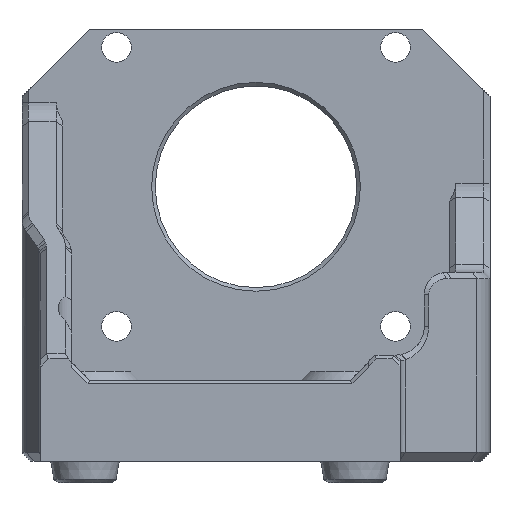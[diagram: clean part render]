
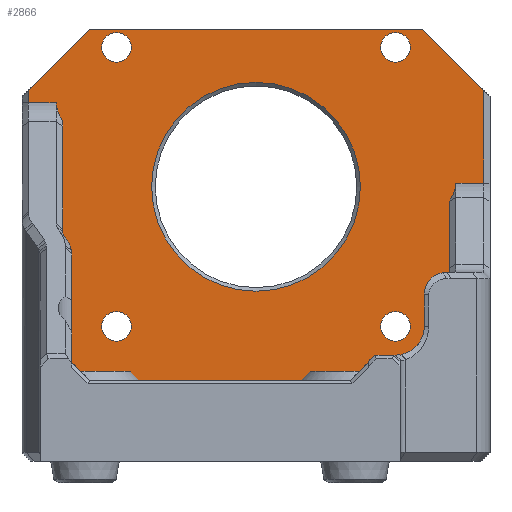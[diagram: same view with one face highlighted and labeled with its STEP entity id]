
A CAD part, front view. The second image highlights one B-rep face of the part: STEP entity #2866.
In plain terms, the highlighted planar face has unit normal (0, -1, 0).
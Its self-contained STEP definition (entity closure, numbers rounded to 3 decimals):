
#105=(
BOUNDED_CURVE()
B_SPLINE_CURVE(2,(#4258,#4259,#4260),.UNSPECIFIED.,.F.,.F.)
B_SPLINE_CURVE_WITH_KNOTS((3,3),(0.214,0.428),
 .UNSPECIFIED.)
CURVE()
GEOMETRIC_REPRESENTATION_ITEM()
RATIONAL_B_SPLINE_CURVE((1.,1.068,1.))
REPRESENTATION_ITEM('')
);
#106=(
BOUNDED_CURVE()
B_SPLINE_CURVE(2,(#4269,#4270,#4271),.UNSPECIFIED.,.F.,.F.)
B_SPLINE_CURVE_WITH_KNOTS((3,3),(0.,0.214),.UNSPECIFIED.)
CURVE()
GEOMETRIC_REPRESENTATION_ITEM()
RATIONAL_B_SPLINE_CURVE((1.,1.068,1.))
REPRESENTATION_ITEM('')
);
#126=FACE_BOUND('',#478,.T.);
#127=FACE_BOUND('',#479,.T.);
#128=FACE_BOUND('',#480,.T.);
#129=FACE_BOUND('',#481,.T.);
#130=FACE_BOUND('',#482,.T.);
#165=PLANE('',#3090);
#296=FACE_OUTER_BOUND('',#477,.T.);
#477=EDGE_LOOP('',(#2121,#2122,#2123,#2124,#2125,#2126,#2127,#2128,#2129,
#2130,#2131,#2132,#2133,#2134));
#478=EDGE_LOOP('',(#2135));
#479=EDGE_LOOP('',(#2136));
#480=EDGE_LOOP('',(#2137));
#481=EDGE_LOOP('',(#2138));
#482=EDGE_LOOP('',(#2139));
#645=LINE('',#4092,#919);
#682=LINE('',#4194,#956);
#701=LINE('',#4249,#975);
#702=LINE('',#4251,#976);
#703=LINE('',#4252,#977);
#704=LINE('',#4254,#978);
#705=LINE('',#4256,#979);
#706=LINE('',#4262,#980);
#707=LINE('',#4263,#981);
#708=LINE('',#4265,#982);
#709=LINE('',#4267,#983);
#710=LINE('',#4272,#984);
#919=VECTOR('',#3325,10.);
#956=VECTOR('',#3424,10.);
#975=VECTOR('',#3487,10.);
#976=VECTOR('',#3488,10.);
#977=VECTOR('',#3489,10.);
#978=VECTOR('',#3490,10.);
#979=VECTOR('',#3491,10.);
#980=VECTOR('',#3492,10.);
#981=VECTOR('',#3493,10.);
#982=VECTOR('',#3494,10.);
#983=VECTOR('',#3495,10.);
#984=VECTOR('',#3496,10.);
#1202=CIRCLE('',#3089,11.6);
#1203=CIRCLE('',#3091,1.65);
#1204=CIRCLE('',#3092,1.65);
#1205=CIRCLE('',#3093,1.65);
#1206=CIRCLE('',#3094,1.65);
#1283=VERTEX_POINT('',#4089);
#1284=VERTEX_POINT('',#4091);
#1317=VERTEX_POINT('',#4191);
#1318=VERTEX_POINT('',#4193);
#1330=VERTEX_POINT('',#4243);
#1331=VERTEX_POINT('',#4247);
#1332=VERTEX_POINT('',#4248);
#1333=VERTEX_POINT('',#4250);
#1334=VERTEX_POINT('',#4253);
#1335=VERTEX_POINT('',#4255);
#1336=VERTEX_POINT('',#4257);
#1337=VERTEX_POINT('',#4261);
#1338=VERTEX_POINT('',#4264);
#1339=VERTEX_POINT('',#4266);
#1340=VERTEX_POINT('',#4268);
#1341=VERTEX_POINT('',#4273);
#1342=VERTEX_POINT('',#4275);
#1343=VERTEX_POINT('',#4277);
#1344=VERTEX_POINT('',#4279);
#1550=EDGE_CURVE('',#1284,#1283,#645,.T.);
#1601=EDGE_CURVE('',#1317,#1318,#682,.T.);
#1626=EDGE_CURVE('',#1330,#1330,#1202,.T.);
#1628=EDGE_CURVE('',#1331,#1332,#701,.T.);
#1629=EDGE_CURVE('',#1333,#1331,#702,.T.);
#1630=EDGE_CURVE('',#1318,#1333,#703,.T.);
#1631=EDGE_CURVE('',#1334,#1317,#704,.T.);
#1632=EDGE_CURVE('',#1335,#1334,#705,.T.);
#1633=EDGE_CURVE('',#1336,#1335,#105,.F.);
#1634=EDGE_CURVE('',#1336,#1337,#706,.T.);
#1635=EDGE_CURVE('',#1337,#1284,#707,.T.);
#1636=EDGE_CURVE('',#1283,#1338,#708,.T.);
#1637=EDGE_CURVE('',#1338,#1339,#709,.T.);
#1638=EDGE_CURVE('',#1340,#1339,#106,.F.);
#1639=EDGE_CURVE('',#1332,#1340,#710,.T.);
#1640=EDGE_CURVE('',#1341,#1341,#1203,.T.);
#1641=EDGE_CURVE('',#1342,#1342,#1204,.T.);
#1642=EDGE_CURVE('',#1343,#1343,#1205,.T.);
#1643=EDGE_CURVE('',#1344,#1344,#1206,.T.);
#2121=ORIENTED_EDGE('',*,*,#1628,.F.);
#2122=ORIENTED_EDGE('',*,*,#1629,.F.);
#2123=ORIENTED_EDGE('',*,*,#1630,.F.);
#2124=ORIENTED_EDGE('',*,*,#1601,.F.);
#2125=ORIENTED_EDGE('',*,*,#1631,.F.);
#2126=ORIENTED_EDGE('',*,*,#1632,.F.);
#2127=ORIENTED_EDGE('',*,*,#1633,.F.);
#2128=ORIENTED_EDGE('',*,*,#1634,.T.);
#2129=ORIENTED_EDGE('',*,*,#1635,.T.);
#2130=ORIENTED_EDGE('',*,*,#1550,.T.);
#2131=ORIENTED_EDGE('',*,*,#1636,.T.);
#2132=ORIENTED_EDGE('',*,*,#1637,.T.);
#2133=ORIENTED_EDGE('',*,*,#1638,.F.);
#2134=ORIENTED_EDGE('',*,*,#1639,.F.);
#2135=ORIENTED_EDGE('',*,*,#1640,.T.);
#2136=ORIENTED_EDGE('',*,*,#1641,.T.);
#2137=ORIENTED_EDGE('',*,*,#1642,.T.);
#2138=ORIENTED_EDGE('',*,*,#1643,.T.);
#2139=ORIENTED_EDGE('',*,*,#1626,.F.);
#2866=ADVANCED_FACE('',(#296,#126,#127,#128,#129,#130),#165,.T.);
#3089=AXIS2_PLACEMENT_3D('',#4244,#3482,#3483);
#3090=AXIS2_PLACEMENT_3D('',#4246,#3485,#3486);
#3091=AXIS2_PLACEMENT_3D('',#4274,#3497,#3498);
#3092=AXIS2_PLACEMENT_3D('',#4276,#3499,#3500);
#3093=AXIS2_PLACEMENT_3D('',#4278,#3501,#3502);
#3094=AXIS2_PLACEMENT_3D('',#4280,#3503,#3504);
#3325=DIRECTION('',(1.,0.,0.));
#3424=DIRECTION('',(0.707,0.,0.707));
#3482=DIRECTION('center_axis',(0.,-1.,0.));
#3483=DIRECTION('ref_axis',(1.,0.,0.));
#3485=DIRECTION('center_axis',(0.,-1.,0.));
#3486=DIRECTION('ref_axis',(1.,0.,0.));
#3487=DIRECTION('',(0.,0.,-1.));
#3488=DIRECTION('',(0.707,0.,-0.707));
#3489=DIRECTION('',(1.,0.,0.));
#3490=DIRECTION('',(0.,0.,1.));
#3491=DIRECTION('',(-1.,0.,0.));
#3492=DIRECTION('',(0.,0.,-1.));
#3493=DIRECTION('',(0.707,0.,-0.707));
#3494=DIRECTION('',(0.707,0.,0.707));
#3495=DIRECTION('',(0.,0.,1.));
#3496=DIRECTION('',(-1.,0.,0.));
#3497=DIRECTION('center_axis',(0.,1.,0.));
#3498=DIRECTION('ref_axis',(1.,0.,0.));
#3499=DIRECTION('center_axis',(0.,1.,0.));
#3500=DIRECTION('ref_axis',(1.,0.,0.));
#3501=DIRECTION('center_axis',(0.,1.,0.));
#3502=DIRECTION('ref_axis',(1.,0.,0.));
#3503=DIRECTION('center_axis',(0.,1.,0.));
#3504=DIRECTION('ref_axis',(1.,0.,0.));
#4089=CARTESIAN_POINT('',(3.5,-1.55,51.875));
#4091=CARTESIAN_POINT('',(-35.5,-1.55,51.875));
#4092=CARTESIAN_POINT('',(-29.,-1.55,51.875));
#4191=CARTESIAN_POINT('',(-41.3,-1.55,84.075));
#4193=CARTESIAN_POINT('',(-34.5,-1.55,90.875));
#4194=CARTESIAN_POINT('',(-50.25,-1.55,75.125));
#4243=CARTESIAN_POINT('',(-27.6,-1.55,73.376));
#4244=CARTESIAN_POINT('Origin',(-16.,-1.55,73.376));
#4246=CARTESIAN_POINT('Origin',(-42.,-1.55,42.875));
#4247=CARTESIAN_POINT('',(9.3,-1.55,84.075));
#4248=CARTESIAN_POINT('',(9.3,-1.55,73.781));
#4249=CARTESIAN_POINT('',(9.3,-1.55,42.875));
#4250=CARTESIAN_POINT('',(2.5,-1.55,90.875));
#4251=CARTESIAN_POINT('',(5.25,-1.55,88.125));
#4252=CARTESIAN_POINT('',(10.,-1.55,90.875));
#4253=CARTESIAN_POINT('',(-41.3,-1.55,82.73));
#4254=CARTESIAN_POINT('',(-41.3,-1.55,42.875));
#4255=CARTESIAN_POINT('',(-38.2,-1.55,82.73));
#4256=CARTESIAN_POINT('',(-42.,-1.55,82.73));
#4257=CARTESIAN_POINT('',(-37.5,-1.55,80.733));
#4258=CARTESIAN_POINT('Ctrl Pts',(-38.2,-1.55,82.73));
#4259=CARTESIAN_POINT('Ctrl Pts',(-38.2,-1.55,81.854));
#4260=CARTESIAN_POINT('Ctrl Pts',(-37.5,-1.55,80.733));
#4261=CARTESIAN_POINT('',(-37.5,-1.55,53.875));
#4262=CARTESIAN_POINT('',(-37.5,-1.55,42.875));
#4263=CARTESIAN_POINT('',(-35.375,-1.55,51.75));
#4264=CARTESIAN_POINT('',(5.5,-1.55,53.875));
#4265=CARTESIAN_POINT('',(-9.625,-1.55,38.75));
#4266=CARTESIAN_POINT('',(5.5,-1.55,71.783));
#4267=CARTESIAN_POINT('',(5.5,-1.55,42.875));
#4268=CARTESIAN_POINT('',(6.2,-1.55,73.781));
#4269=CARTESIAN_POINT('Ctrl Pts',(5.5,-1.55,71.783));
#4270=CARTESIAN_POINT('Ctrl Pts',(6.2,-1.55,72.904));
#4271=CARTESIAN_POINT('Ctrl Pts',(6.2,-1.55,73.781));
#4272=CARTESIAN_POINT('',(-16.,-1.55,73.781));
#4273=CARTESIAN_POINT('',(-2.15,-1.55,88.876));
#4274=CARTESIAN_POINT('Origin',(-0.5,-1.55,88.876));
#4275=CARTESIAN_POINT('',(-33.15,-1.55,88.876));
#4276=CARTESIAN_POINT('Origin',(-31.5,-1.55,88.876));
#4277=CARTESIAN_POINT('',(-2.15,-1.55,57.876));
#4278=CARTESIAN_POINT('Origin',(-0.5,-1.55,57.876));
#4279=CARTESIAN_POINT('',(-33.15,-1.55,57.876));
#4280=CARTESIAN_POINT('Origin',(-31.5,-1.55,57.876));
